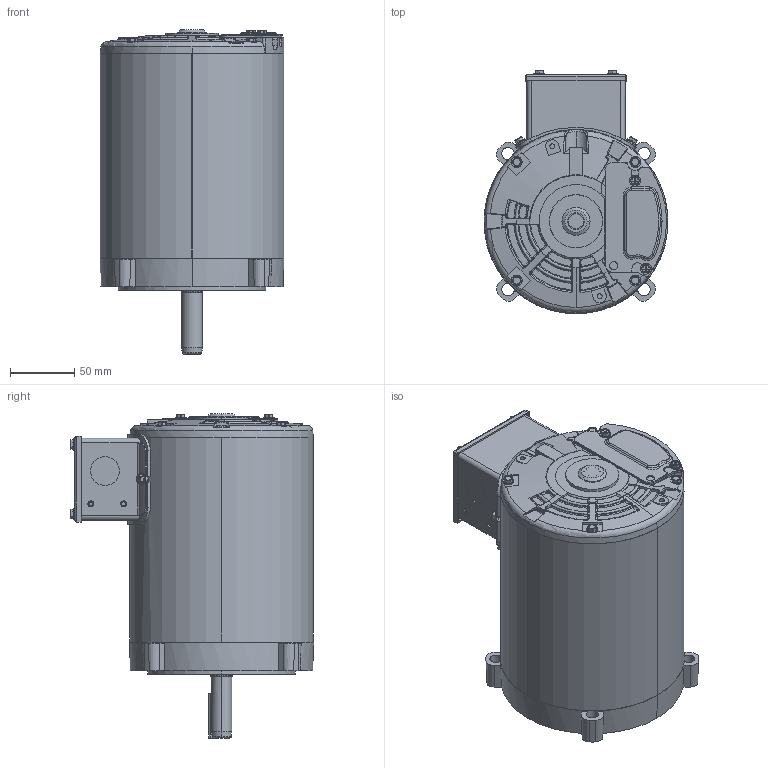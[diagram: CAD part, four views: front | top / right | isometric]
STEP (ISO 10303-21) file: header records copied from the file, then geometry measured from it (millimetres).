
FILE_DESCRIPTION (( 'STEP AP203' ), '1' );
FILE_NAME ('SS403196-625_Rev02.STEP', '2019-10-02T14:16:57', ( '' ), ( '' ), 'SwSTEP 2.0', 'SolidWorks 2015', '' );
FILE_SCHEMA (( 'CONFIG_CONTROL_DESIGN' ));
Length unit declared in the file: inch
Products named in the file (1): SS403196-625_Rev02
Bounding box: 142.74 x 188.87 x 251.59 mm (x, y, z)
Volume: 404531.4 mm3; surface area: 359095.7 mm2
Topology: 28 solids, 29 shells, 2874 faces, 7189 edges, 4485 vertices
Faces by surface type: plane 1175, cylinder 638, cone 426, bspline 337, torus 272, sphere 26
Entity records: 102897 total; most frequent: CARTESIAN_POINT 37660, ORIENTED_EDGE 14264, DIRECTION 12837, EDGE_CURVE 7132, AXIS2_PLACEMENT_3D 5083, VERTEX_POINT 4477, EDGE_LOOP 3117, FACE_OUTER_BOUND 2874
